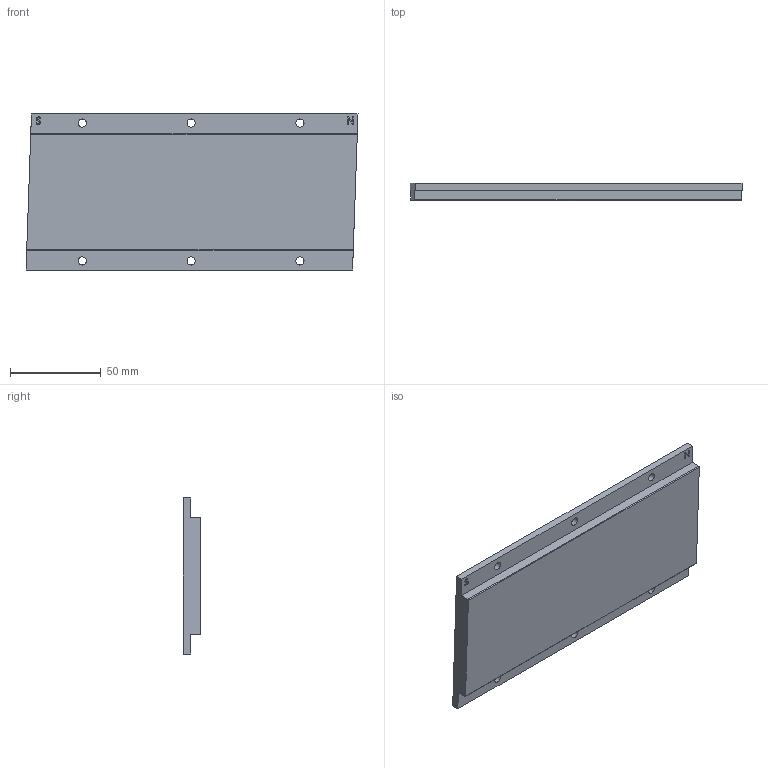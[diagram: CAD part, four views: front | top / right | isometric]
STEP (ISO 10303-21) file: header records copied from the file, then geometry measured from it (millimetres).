
FILE_DESCRIPTION( ( 'Unknown' ), '1' );
FILE_NAME( 'C:/Users/gyt/Desktop/电机制造图/DPD/DPD修改/官网3D/DPD86M180.stp', 'Unknown', ( 'Unknown' ), ( 'Unknown' ), 'PSStep 17.0.49', 'Unknown', ' ' );
FILE_SCHEMA( ( 'AUTOMOTIVE_DESIGN { 1 0 10303 214 1 1 1 1 }' ) );
Length unit declared in the file: millimetre
Products named in the file (1): 1
Bounding box: 183 x 9.6 x 86 mm (x, y, z)
Volume: 126439.6 mm3; surface area: 35916.9 mm2
Topology: 1 solids, 1 shells, 36 faces, 96 edges, 64 vertices
Faces by surface type: plane 22, cylinder 8, extrusion 6
Full cylindrical faces by diameter (mm): 4.5 x6
Entity records: 1647 total; most frequent: CARTESIAN_POINT 488, ORIENTED_EDGE 180, DIRECTION 142, EDGE_CURVE 90, VERTEX_POINT 64, EDGE_LOOP 56, VECTOR 48, AXIS2_PLACEMENT_3D 47
